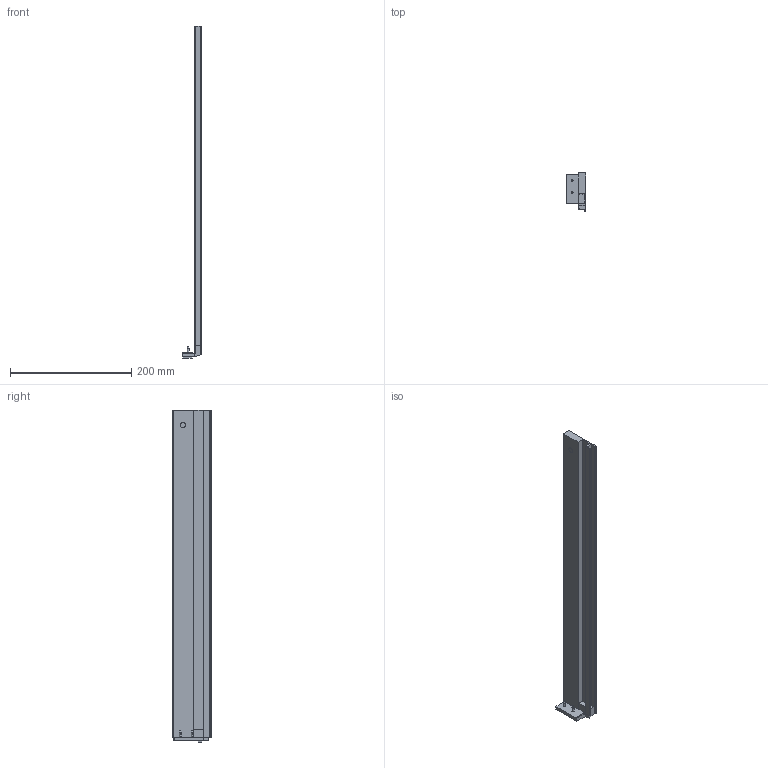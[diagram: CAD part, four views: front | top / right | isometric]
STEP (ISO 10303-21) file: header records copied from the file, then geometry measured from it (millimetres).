
FILE_DESCRIPTION (( 'STEP AP214' ), '1' );
FILE_NAME ('Vionaro_Alu-Zarge_H63_V1_NL550_RE.STEP', '2014-08-22T09:41:06', ( '' ), ( '' ), 'SwSTEP 2.0', 'SolidWorks 2013', '' );
FILE_SCHEMA (( 'AUTOMOTIVE_DESIGN' ));
Length unit declared in the file: millimetre
Products named in the file (1): Vionaro_Alu-Zarge_H63_V1_NL550_RE
Bounding box: 33 x 63 x 547.9 mm (x, y, z)
Volume: 307825.2 mm3; surface area: 106705.9 mm2
Topology: 1 solids, 1 shells, 71 faces, 185 edges, 121 vertices
Faces by surface type: plane 59, cylinder 8, cone 4
Entity records: 2178 total; most frequent: CARTESIAN_POINT 378, ORIENTED_EDGE 370, DIRECTION 350, EDGE_CURVE 185, VECTOR 164, LINE 164, VERTEX_POINT 121, AXIS2_PLACEMENT_3D 93
